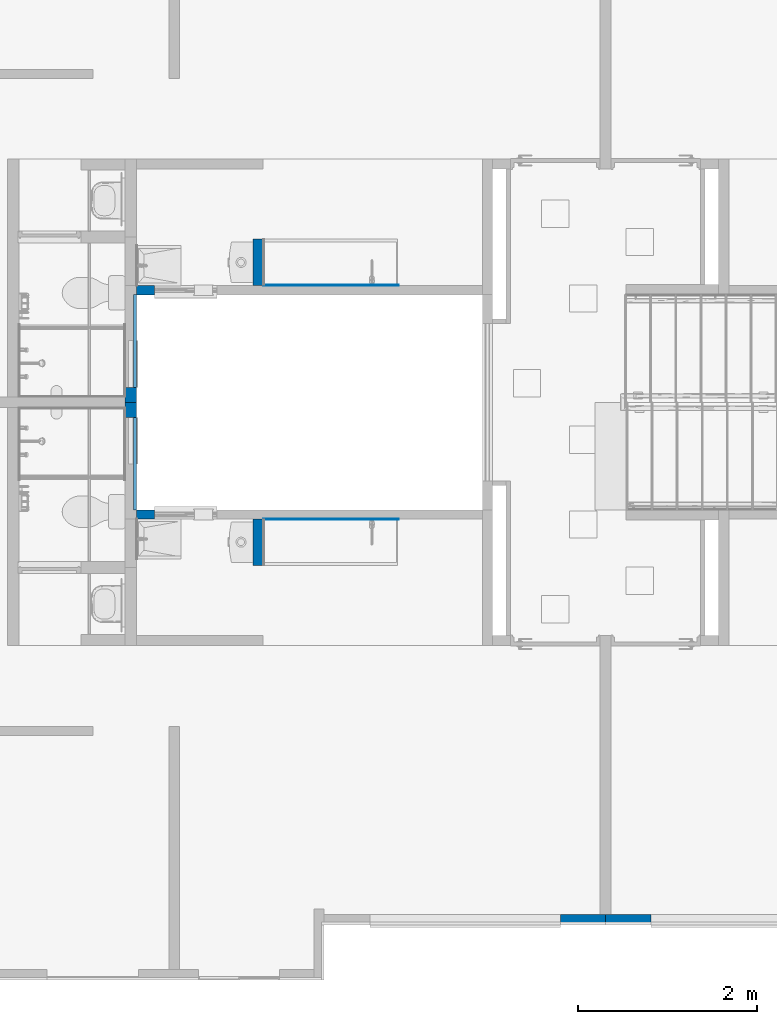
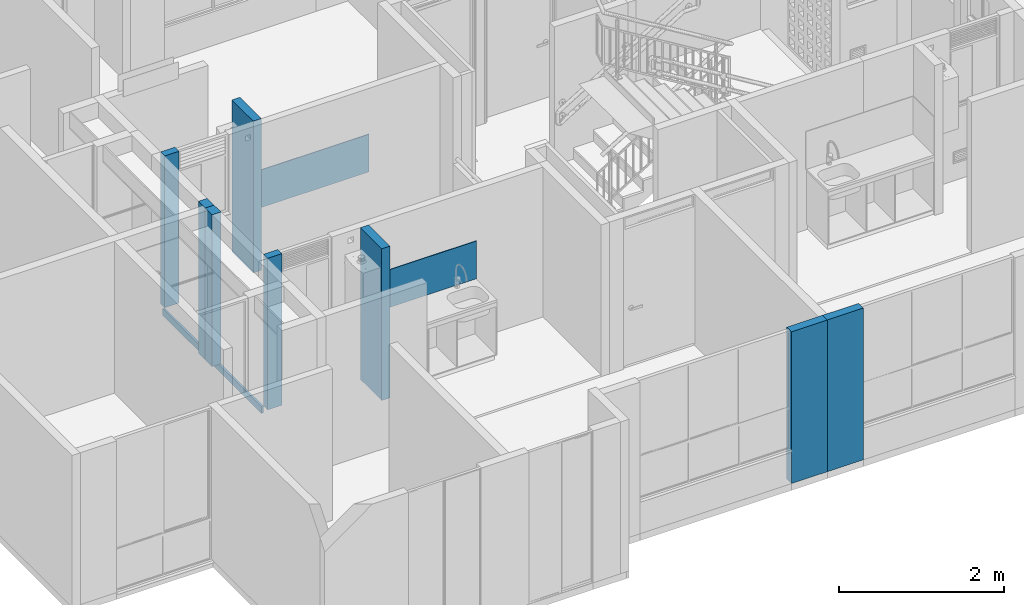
# One storey, part 8 of 48: 12 walls, 2 openings.
"""IFC4 building model written with IfcOpenShell, lengths in metres."""

from ifc_helpers import new_model, entity, si_unit, converted_unit, derived_unit, direction, frame, origin, place, context, subcontext, project, spatial, indexed_curve, outline, extrude, material, constituent, constituent_set, type_object, element, save


model = new_model("IFC4")

# Units and contexts
model_context = context("Model", 3, precision=1e-05, world=origin(), true_north=direction((6.123031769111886e-17, 1.0)))
body_context = subcontext(model_context, "Body", "Model", "MODEL_VIEW")
ifc_project = project(units=[si_unit("LENGTHUNIT", "METRE"), si_unit("AREAUNIT", "SQUARE_METRE"), si_unit("VOLUMEUNIT", "CUBIC_METRE"), converted_unit("PLANEANGLEUNIT", "DEGREE", entity("IfcRatioMeasure", 0.017453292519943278), si_unit("PLANEANGLEUNIT", "RADIAN"), dimensions=[0, 0, 0, 0, 0, 0, 0]), si_unit("MASSUNIT", "GRAM", prefix="KILO"), derived_unit("MASSDENSITYUNIT", [(si_unit("MASSUNIT", "GRAM", prefix="KILO"), 1), (si_unit("LENGTHUNIT", "METRE"), -3)]), derived_unit("IONCONCENTRATIONUNIT", [(si_unit("MASSUNIT", "GRAM", prefix="KILO"), 1), (si_unit("LENGTHUNIT", "METRE"), -3)]), derived_unit("MOMENTOFINERTIAUNIT", [(si_unit("LENGTHUNIT", "METRE"), 4)]), si_unit("TIMEUNIT", "SECOND"), si_unit("FREQUENCYUNIT", "HERTZ"), si_unit("THERMODYNAMICTEMPERATUREUNIT", "DEGREE_CELSIUS"), derived_unit("THERMALTRANSMITTANCEUNIT", [(si_unit("MASSUNIT", "GRAM", prefix="KILO"), 1), (si_unit("THERMODYNAMICTEMPERATUREUNIT", "KELVIN"), -1), (si_unit("TIMEUNIT", "SECOND"), -3)]), derived_unit("THERMALCONDUCTANCEUNIT", [(si_unit("MASSUNIT", "GRAM", prefix="KILO"), 1), (si_unit("THERMODYNAMICTEMPERATUREUNIT", "KELVIN"), -1), (si_unit("TIMEUNIT", "SECOND"), -3), (si_unit("LENGTHUNIT", "METRE"), 1)]), derived_unit("VOLUMETRICFLOWRATEUNIT", [(si_unit("LENGTHUNIT", "METRE"), 3), (si_unit("TIMEUNIT", "SECOND"), -1)]), derived_unit("MASSFLOWRATEUNIT", [(si_unit("MASSUNIT", "GRAM", prefix="KILO"), 1), (si_unit("TIMEUNIT", "SECOND"), -1)]), derived_unit("ROTATIONALFREQUENCYUNIT", [(si_unit("TIMEUNIT", "SECOND"), -1)]), si_unit("ELECTRICCURRENTUNIT", "AMPERE"), si_unit("ELECTRICVOLTAGEUNIT", "VOLT"), si_unit("POWERUNIT", "WATT"), si_unit("FORCEUNIT", "NEWTON", prefix="KILO"), si_unit("ILLUMINANCEUNIT", "LUX"), si_unit("LUMINOUSFLUXUNIT", "LUMEN"), si_unit("LUMINOUSINTENSITYUNIT", "CANDELA"), derived_unit("USERDEFINED", [(si_unit("MASSUNIT", "GRAM", prefix="KILO"), -1), (si_unit("LENGTHUNIT", "METRE"), -2), (si_unit("TIMEUNIT", "SECOND"), 3), (si_unit("LUMINOUSFLUXUNIT", "LUMEN"), 1)]), derived_unit("USERDEFINED", [(si_unit("MASSUNIT", "GRAM", prefix="KILO"), 1), (si_unit("TIMEUNIT", "SECOND"), -3), (si_unit("LENGTHUNIT", "METRE"), 3), (si_unit("ELECTRICCURRENTUNIT", "AMPERE"), -2)]), derived_unit("SOUNDPOWERUNIT", [(si_unit("MASSUNIT", "GRAM", prefix="KILO"), 1), (si_unit("TIMEUNIT", "SECOND"), -3), (si_unit("LENGTHUNIT", "METRE"), 2)]), derived_unit("SOUNDPRESSUREUNIT", [(si_unit("MASSUNIT", "GRAM", prefix="KILO"), 1), (si_unit("LENGTHUNIT", "METRE"), -1), (si_unit("TIMEUNIT", "SECOND"), -2)]), derived_unit("LINEARVELOCITYUNIT", [(si_unit("LENGTHUNIT", "METRE"), 1), (si_unit("TIMEUNIT", "SECOND"), -1)]), si_unit("PRESSUREUNIT", "PASCAL"), derived_unit("USERDEFINED", [(si_unit("MASSUNIT", "GRAM", prefix="KILO"), 1), (si_unit("LENGTHUNIT", "METRE"), -2), (si_unit("TIMEUNIT", "SECOND"), -2)]), derived_unit("LINEARFORCEUNIT", [(si_unit("MASSUNIT", "GRAM", prefix="KILO"), 1), (si_unit("TIMEUNIT", "SECOND"), -2)]), derived_unit("PLANARFORCEUNIT", [(si_unit("MASSUNIT", "GRAM", prefix="KILO"), 1), (si_unit("LENGTHUNIT", "METRE"), -1), (si_unit("TIMEUNIT", "SECOND"), -2)]), derived_unit("SPECIFICHEATCAPACITYUNIT", [(si_unit("THERMODYNAMICTEMPERATUREUNIT", "KELVIN"), -1), (si_unit("LENGTHUNIT", "METRE"), 2), (si_unit("TIMEUNIT", "SECOND"), -2)]), derived_unit("HEATINGVALUEUNIT", [(si_unit("LENGTHUNIT", "METRE"), 2), (si_unit("TIMEUNIT", "SECOND"), -2)]), derived_unit("VAPORPERMEABILITYUNIT", [(si_unit("LENGTHUNIT", "METRE"), -1), (si_unit("TIMEUNIT", "SECOND"), 1)]), derived_unit("DYNAMICVISCOSITYUNIT", [(si_unit("MASSUNIT", "GRAM", prefix="KILO"), 1), (si_unit("TIMEUNIT", "SECOND"), -1), (si_unit("LENGTHUNIT", "METRE"), -1)]), derived_unit("THERMALEXPANSIONCOEFFICIENTUNIT", [(si_unit("THERMODYNAMICTEMPERATUREUNIT", "KELVIN"), -1)]), derived_unit("MODULUSOFELASTICITYUNIT", [(si_unit("MASSUNIT", "GRAM", prefix="KILO"), 1), (si_unit("LENGTHUNIT", "METRE"), -1), (si_unit("TIMEUNIT", "SECOND"), -2)]), derived_unit("ISOTHERMALMOISTURECAPACITYUNIT", [(si_unit("LENGTHUNIT", "METRE"), 3), (si_unit("MASSUNIT", "GRAM", prefix="KILO"), -1)]), derived_unit("MOISTUREDIFFUSIVITYUNIT", [(si_unit("TIMEUNIT", "SECOND"), -1), (si_unit("LENGTHUNIT", "METRE"), 2)])], contexts=[model_context])

# Site, building, storey
site_placement = place(None, origin())
site = spatial("IfcSite", under=ifc_project, at=site_placement, Name="Default", CompositionType="ELEMENT")
building_placement = place(site_placement, origin())
building = spatial("IfcBuilding", under=site, at=building_placement, CompositionType="ELEMENT")
storey_placement = place(building_placement, frame((0.0, 0.0, 7.050000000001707)))
storey = spatial("IfcBuildingStorey", under=building, at=storey_placement, Name="Nivel 4", CompositionType="ELEMENT", Elevation=7.050000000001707)

# Walls
ifc_material_1 = material(Name="LADRILLO CLARO", Category="Materials")
wall_type_1 = type_object("IfcWallType", Name="Basic Wall:B2010 - 0.115m - ME mampostería no estructural - Ladrillo", PredefinedType="STANDARD")
wall_1_placement = place(storey_placement, frame((8.817499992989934, -12.197500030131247, 0.0)))
element("IfcWall", 1, at=wall_1_placement, inside=storey, type_object=wall_type_1, material=ifc_material_1, Name="Basic Wall:B2010 - 0.115m - ME mampostería no estructural - Ladrillo", ObjectType="Basic Wall:B2010 - 0.115m - ME mampostería no estructural - Ladrillo", PredefinedType="NOTDEFINED", context=body_context, shape_type="SweptSolid", body=[
    extrude(outline(indexed_curve([(0.5050000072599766, 0.05749999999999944), (1.5136500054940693e-16, 0.057499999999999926), (-1.5136500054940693e-16, -0.057499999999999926), (0.5050000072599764, -0.057500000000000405), (0.5050000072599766, 0.05749999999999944)], self_intersect=False)), origin(), (0.0, 0.0, 1.0), 2.2500000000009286),
])
wall_2_placement = place(storey_placement, frame((9.82750000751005, -12.197500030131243, 0.0), z_axis=(0.0, 0.0, 1.0), x_axis=(-1.0, 0.0, 0.0)))
element("IfcWall", 2, at=wall_2_placement, inside=storey, type_object=wall_type_1, material=ifc_material_1, Name="Basic Wall:B2010 - 0.115m - ME mampostería no estructural - Ladrillo", ObjectType="Basic Wall:B2010 - 0.115m - ME mampostería no estructural - Ladrillo", PredefinedType="NOTDEFINED", context=body_context, shape_type="SweptSolid", body=[
    extrude(outline(indexed_curve([(0.5050000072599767, 0.05750000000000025), (2.0895521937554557e-16, 0.057499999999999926), (-2.0895521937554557e-16, -0.057499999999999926), (0.5050000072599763, -0.05749999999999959), (0.5050000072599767, 0.05750000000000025)], self_intersect=False)), origin(), (0.0, 0.0, 1.0), 2.2500000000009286),
])

# Wall, opening
ifc_material_2 = material(Name="PINTURA BLANCA PARA EXTERIORES", Category="Materials")
ifc_constituent_1 = constituent(ifc_material_2, Name="PINTURA BLANCA PARA EXTERIORES", Category="Materials")
ifc_material_3 = material(Name="Concreto - Fundido in situ", Category="Materials")
ifc_constituent_2 = constituent(ifc_material_3, Name="Concreto - Fundido in situ", Category="Materials")
ifc_constituent_set_1 = constituent_set(constituents=[ifc_constituent_1, ifc_constituent_2], Name="Basic Wall:B2010 - 0.10m - MI no estructural- Concreto + repello+ pintura blanca")
wall_type_2 = type_object("IfcWallType", Name="Basic Wall:B2010 - 0.10m - MI no estructural- Concreto + repello+ pintura blanca", PredefinedType="STANDARD", material=ifc_constituent_set_1)
wall_3_placement = place(storey_placement, frame((4.087499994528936, -5.175000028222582, 0.0)))
wall_3 = element("IfcWall", 3, at=wall_3_placement, inside=storey, type_object=wall_type_2, material=ifc_constituent_set_1, Name="Basic Wall:B2010 - 0.10m - MI no estructural- Concreto + repello+ pintura blanca", ObjectType="Basic Wall:B2010 - 0.10m - MI no estructural- Concreto + repello+ pintura blanca", PredefinedType="NOTDEFINED", context=body_context, shape_type="SweptSolid", body=[
    extrude(outline(indexed_curve([(-0.0004999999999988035, -0.10000000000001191), (0.0005000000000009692, -0.10000000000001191), (0.0004999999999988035, 0.10000000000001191), (-0.0005000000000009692, 0.10000000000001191), (-0.0004999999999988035, -0.10000000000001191)], self_intersect=False)), frame((0.10000000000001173, -0.04999999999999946, 0.0), z_axis=(0.0, 0.0, 1.0), x_axis=(0.0, 1.0, 0.0)), (0.0, 0.0, 1.0), 2.2499999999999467),
    extrude(outline(indexed_curve([(-0.04999999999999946, -0.10000000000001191), (0.050000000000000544, -0.10000000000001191), (0.050000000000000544, 0.10000000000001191), (-0.04999999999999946, 0.10000000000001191), (-0.04999999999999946, -0.10000000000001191)], self_intersect=False)), frame((0.10000000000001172, 0.0005000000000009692, 0.0), z_axis=(0.0, 0.0, 1.0), x_axis=(0.0, -1.0, 0.0)), (0.0, 0.0, 1.0), 2.2499999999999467),
])
opening_1_placement = place(wall_3_placement, origin())
element("IfcOpeningElement", 4, at=opening_1_placement, cuts=wall_3, Name="Basic Wall:B2010 - 0.10m - MI no estructural- Concreto + repello+ pintura blanca", PredefinedType="OPENING", context=body_context, shape_type="SweptSolid", body=[
    extrude(outline(indexed_curve([(-0.5749999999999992, -0.35000000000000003), (0.5749999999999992, -0.35000000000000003), (0.5749999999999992, 0.3499999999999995), (-0.5749999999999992, 0.3499999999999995), (-0.5749999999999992, -0.35000000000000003)], self_intersect=False)), frame((0.5500000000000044, -1.4734999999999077, 1.674999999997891), z_axis=(0.0, 1.0, 0.0), x_axis=(0.0, 0.0, 1.0)), (0.0, 0.0, 1.0), 3.048),
])

wall_4_placement = place(storey_placement, frame((4.087499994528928, -7.6750000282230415, 0.0)))
wall_4 = element("IfcWall", 5, at=wall_4_placement, inside=storey, type_object=wall_type_2, material=ifc_constituent_set_1, Name="Basic Wall:B2010 - 0.10m - MI no estructural- Concreto + repello+ pintura blanca", ObjectType="Basic Wall:B2010 - 0.10m - MI no estructural- Concreto + repello+ pintura blanca", PredefinedType="NOTDEFINED", context=body_context, shape_type="SweptSolid", body=[
    extrude(outline(indexed_curve([(-0.000500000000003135, -0.10000000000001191), (0.0004999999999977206, -0.10000000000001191), (0.0005000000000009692, 0.10000000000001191), (-0.0004999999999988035, 0.10000000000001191), (-0.000500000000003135, -0.10000000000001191)], self_intersect=False)), frame((0.10000000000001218, 0.04999999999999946, 0.0), z_axis=(0.0, 0.0, 1.0), x_axis=(0.0, -1.0, 0.0)), (0.0, 0.0, 1.0), 2.2499999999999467),
    extrude(outline(indexed_curve([(-0.05, -0.10000000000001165), (0.05, -0.10000000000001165), (0.05, 0.10000000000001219), (-0.04999999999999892, 0.10000000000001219), (-0.05, -0.10000000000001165)], self_intersect=False)), frame((0.1000000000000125, -0.0004999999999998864, 0.0), z_axis=(0.0, 0.0, 1.0), x_axis=(0.0, 1.0, 0.0)), (0.0, 0.0, 1.0), 2.2499999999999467),
])
opening_2_placement = place(wall_4_placement, origin())
element("IfcOpeningElement", 6, at=opening_2_placement, cuts=wall_4, Name="Basic Wall:B2010 - 0.10m - MI no estructural- Concreto + repello+ pintura blanca", PredefinedType="OPENING", context=body_context, shape_type="SweptSolid", body=[
    extrude(outline(indexed_curve([(-0.5749999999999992, -0.35000000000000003), (0.5749999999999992, -0.35000000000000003), (0.5749999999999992, 0.3499999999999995), (-0.5749999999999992, 0.3499999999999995), (-0.5749999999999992, -0.35000000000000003)], self_intersect=False)), frame((0.5500000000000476, -1.5745000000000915, 1.674999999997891), z_axis=(0.0, 1.0, 0.0), x_axis=(0.0, 0.0, 1.0)), (0.0, 0.0, 1.0), 3.048),
])

# Walls
wall_type_3 = type_object("IfcWallType", Name="Basic Wall:B2010 - 0.115m - MI mampostería no estructural - Ladrillo", PredefinedType="STANDARD")
wall_5_placement = place(storey_placement, frame((5.44499999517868, -4.605000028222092, 0.0), z_axis=(0.0, 0.0, 1.0), x_axis=(0.0, -1.0, 0.0)))
element("IfcWall", 7, at=wall_5_placement, inside=storey, type_object=wall_type_3, material=ifc_material_1, Name="Basic Wall:B2010 - 0.115m - MI mampostería no estructural - Ladrillo", ObjectType="Basic Wall:B2010 - 0.115m - MI mampostería no estructural - Ladrillo", PredefinedType="NOTDEFINED", context=body_context, shape_type="SweptSolid", body=[
    extrude(outline(indexed_curve([(0.5195000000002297, 0.057500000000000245), (2.0425946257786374e-16, 0.057499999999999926), (-2.0425946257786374e-16, -0.057499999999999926), (0.5195000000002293, -0.0574999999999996), (0.5195000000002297, 0.057500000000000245)], self_intersect=False)), origin(), (0.0, 0.0, 1.0), 2.2500000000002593),
])
wall_6_placement = place(storey_placement, frame((5.4449999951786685, -8.245000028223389, 0.0), z_axis=(0.0, 0.0, 1.0), x_axis=(0.0, 1.0, 0.0)))
element("IfcWall", 8, at=wall_6_placement, inside=storey, type_object=wall_type_3, material=ifc_material_1, Name="Basic Wall:B2010 - 0.115m - MI mampostería no estructural - Ladrillo", ObjectType="Basic Wall:B2010 - 0.115m - MI mampostería no estructural - Ladrillo", PredefinedType="NOTDEFINED", context=body_context, shape_type="SweptSolid", body=[
    extrude(outline(indexed_curve([(0.51950000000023, 0.05749999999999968), (5.098138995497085e-16, 0.057499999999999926), (-5.098138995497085e-16, -0.057499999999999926), (0.519500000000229, -0.05750000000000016), (0.51950000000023, 0.05749999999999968)], self_intersect=False)), origin(), (0.0, 0.0, 1.0), 2.2500000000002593),
])
ifc_material_4 = material(Name="Ceramica Salpicadero 0.28m x 0.45m", Category="Materials")
wall_type_4 = type_object("IfcWallType", Name="Basic Wall:C2010 - 0.28 x 0.45 - Salpicadero - Cerámica", PredefinedType="STANDARD")
wall_7_placement = place(storey_placement, frame((5.502499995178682, -5.120000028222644, 0.9299999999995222)))
element("IfcWall", 9, at=wall_7_placement, inside=storey, type_object=wall_type_4, material=ifc_material_4, Name="Basic Wall:C2010 - 0.28 x 0.45 - Salpicadero - Cerámica", ObjectType="Basic Wall:C2010 - 0.28 x 0.45 - Salpicadero - Cerámica", PredefinedType="NOTDEFINED", context=body_context, shape_type="SweptSolid", body=[
    extrude(outline(indexed_curve([(1.5100000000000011, 0.005000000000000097), (-1.8429308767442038e-17, 0.004999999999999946), (1.8429308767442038e-17, -0.004999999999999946), (1.5100000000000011, -0.004999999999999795), (1.5100000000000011, 0.005000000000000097)], self_intersect=False)), origin(), (0.0, 0.0, 1.0), 0.5599999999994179),
])
wall_8_placement = place(storey_placement, frame((5.502499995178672, -7.730000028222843, 0.9299999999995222)))
element("IfcWall", 10, at=wall_8_placement, inside=storey, type_object=wall_type_4, material=ifc_material_4, Name="Basic Wall:C2010 - 0.28 x 0.45 - Salpicadero - Cerámica", ObjectType="Basic Wall:C2010 - 0.28 x 0.45 - Salpicadero - Cerámica", PredefinedType="NOTDEFINED", context=body_context, shape_type="SweptSolid", body=[
    extrude(outline(indexed_curve([(1.5100000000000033, 0.004999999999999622), (-1.326925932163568e-17, 0.004999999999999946), (1.326925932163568e-17, -0.004999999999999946), (1.5100000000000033, -0.005000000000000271), (1.5100000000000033, 0.004999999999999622)], self_intersect=False)), origin(), (0.0, 0.0, 1.0), 0.5599999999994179),
])
ifc_material_5 = material(Name="Pañete", Category="Materials")
ifc_constituent_3 = constituent(ifc_material_5, Name="Pañete", Category="Materials")
ifc_constituent_4 = constituent(ifc_material_1, Name="LADRILLO CLARO", Category="Materials")
ifc_constituent_set_2 = constituent_set(constituents=[ifc_constituent_3, ifc_constituent_4], Name="Basic Wall:B2010 - 0.115m - MI  mampostería no estructural - Ladrillo + Pañete")
wall_type_5 = type_object("IfcWallType", Name="Basic Wall:B2010 - 0.115m - MI  mampostería no estructural - Ladrillo + Pañete", PredefinedType="STANDARD", material=ifc_constituent_set_2)
wall_9_placement = place(storey_placement, frame((4.0249999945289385, -6.257812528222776, 0.0), z_axis=(0.0, 0.0, 1.0), x_axis=(0.0, -1.0, 0.0)))
element("IfcWall", 11, at=wall_9_placement, inside=storey, type_object=wall_type_5, material=ifc_constituent_set_2, Name="Basic Wall:B2010 - 0.115m - MI  mampostería no estructural - Ladrillo + Pañete", ObjectType="Basic Wall:B2010 - 0.115m - MI  mampostería no estructural - Ladrillo + Pañete", PredefinedType="NOTDEFINED", context=body_context, shape_type="SweptSolid", body=[
    extrude(outline(indexed_curve([(-0.004999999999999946, -0.08359375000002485), (0.004999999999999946, -0.08359375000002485), (0.004999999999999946, 0.08359375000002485), (-0.004999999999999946, 0.08359375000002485), (-0.004999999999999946, -0.08359375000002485)], self_intersect=False)), frame((0.08359375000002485, -0.05750000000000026, 0.0), z_axis=(0.0, 0.0, 1.0), x_axis=(0.0, 1.0, 0.0)), (0.0, 0.0, 1.0), 2.2500000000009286),
    extrude(outline(indexed_curve([(-0.057499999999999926, -0.08359375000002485), (0.057499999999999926, -0.08359375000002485), (0.057499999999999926, 0.08359375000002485), (-0.057499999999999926, 0.08359375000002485), (-0.057499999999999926, -0.08359375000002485)], self_intersect=False)), frame((0.08359375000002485, 0.00499999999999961, 0.0), z_axis=(0.0, 0.0, 1.0), x_axis=(0.0, -1.0, 0.0)), (0.0, 0.0, 1.0), 2.2500000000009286),
])
wall_10_placement = place(storey_placement, frame((4.024999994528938, -6.592187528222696, 0.0), z_axis=(0.0, 0.0, 1.0), x_axis=(0.0, 1.0, 0.0)))
element("IfcWall", 12, at=wall_10_placement, inside=storey, type_object=wall_type_5, material=ifc_constituent_set_2, Name="Basic Wall:B2010 - 0.115m - MI  mampostería no estructural - Ladrillo + Pañete", ObjectType="Basic Wall:B2010 - 0.115m - MI  mampostería no estructural - Ladrillo + Pañete", PredefinedType="NOTDEFINED", context=body_context, shape_type="SweptSolid", body=[
    extrude(outline(indexed_curve([(-0.0050000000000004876, -0.08359375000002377), (0.004999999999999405, -0.08359375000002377), (0.005000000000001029, 0.08359375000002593), (-0.004999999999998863, 0.08359375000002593), (-0.0050000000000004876, -0.08359375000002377)], self_intersect=False)), frame((0.08359375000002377, 0.057500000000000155, 0.0), z_axis=(0.0, 0.0, 1.0), x_axis=(0.0, -1.0, 0.0)), (0.0, 0.0, 1.0), 2.2500000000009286),
    extrude(outline(indexed_curve([(-0.05750000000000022, -0.08359375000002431), (0.05749999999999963, -0.08359375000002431), (0.057499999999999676, 0.08359375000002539), (-0.05750000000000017, 0.08359375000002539), (-0.05750000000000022, -0.08359375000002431)], self_intersect=False)), frame((0.08359375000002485, -0.004999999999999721, 0.0), z_axis=(0.0, 0.0, 1.0), x_axis=(0.0, 1.0, 0.0)), (0.0, 0.0, 1.0), 2.2500000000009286),
])
wall_type_6 = type_object("IfcWallType", Name="Basic Wall:B2010 - 0.03m - ME enchape  no estructural - Ladrillo", PredefinedType="STANDARD")
wall_11_placement = place(storey_placement, frame((4.072499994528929, -7.625000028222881, -0.10000000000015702), z_axis=(0.0, 0.0, 1.0), x_axis=(0.0, 1.0, 0.0)))
element("IfcWall", 13, at=wall_11_placement, inside=storey, type_object=wall_type_6, material=ifc_material_1, Name="Basic Wall:B2010 - 0.03m - ME enchape  no estructural - Ladrillo", ObjectType="Basic Wall:B2010 - 0.03m - ME enchape  no estructural - Ladrillo", PredefinedType="NOTDEFINED", context=body_context, shape_type="SweptSolid", body=[
    extrude(outline(indexed_curve([(1.2000000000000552, 0.014999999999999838), (-2.707167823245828e-17, 0.014999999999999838), (2.707167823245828e-17, -0.014999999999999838), (1.2000000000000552, -0.014999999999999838), (1.2000000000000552, 0.014999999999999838)], self_intersect=False)), origin(), (0.0, 0.0, 1.0), 0.09999999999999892),
])
wall_12_placement = place(storey_placement, frame((4.072499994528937, -5.225000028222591, -0.10000000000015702), z_axis=(0.0, 0.0, 1.0), x_axis=(0.0, -1.0, 0.0)))
element("IfcWall", 14, at=wall_12_placement, inside=storey, type_object=wall_type_6, material=ifc_material_1, Name="Basic Wall:B2010 - 0.03m - ME enchape  no estructural - Ladrillo", ObjectType="Basic Wall:B2010 - 0.03m - ME enchape  no estructural - Ladrillo", PredefinedType="NOTDEFINED", context=body_context, shape_type="SweptSolid", body=[
    extrude(outline(indexed_curve([(1.2000000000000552, 0.014999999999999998), (-6.966570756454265e-17, 0.014999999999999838), (6.966570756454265e-17, -0.014999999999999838), (1.2000000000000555, -0.01499999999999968), (1.2000000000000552, 0.014999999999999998)], self_intersect=False)), origin(), (0.0, 0.0, 1.0), 0.09999999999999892),
])

save(model, "model.ifc")
